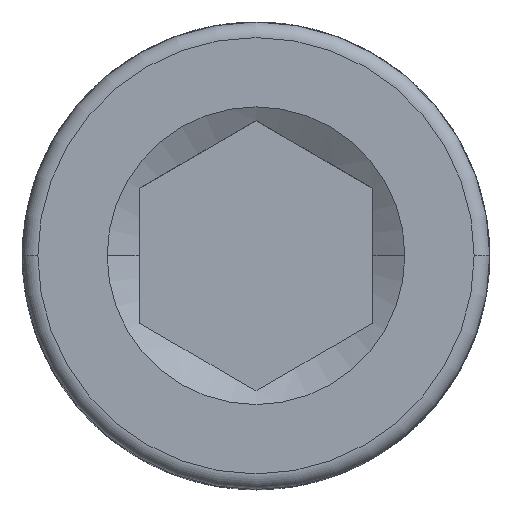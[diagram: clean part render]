
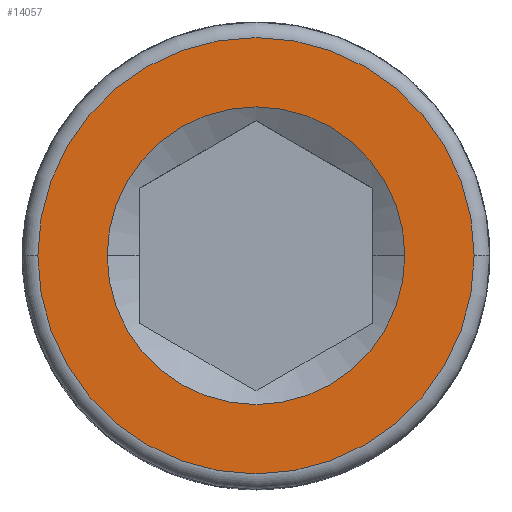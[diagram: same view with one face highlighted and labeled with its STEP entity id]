
A CAD part, top view. The second image highlights one B-rep face of the part: STEP entity #14057.
In plain terms, the highlighted planar face has unit normal (0, 0, 1).
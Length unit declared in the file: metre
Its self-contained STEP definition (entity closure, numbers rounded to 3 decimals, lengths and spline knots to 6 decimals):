
#235 = CARTESIAN_POINT ( 'NONE',  ( 0., 0., 0.053975 ) ) ;
#489 = DIRECTION ( 'NONE',  ( 0., 0., 1. ) ) ;
#561 = ORIENTED_EDGE ( 'NONE', *, *, #3369, .F. ) ;
#700 = CARTESIAN_POINT ( 'NONE',  ( 0., 0.004445, 0.053975 ) ) ;
#920 = AXIS2_PLACEMENT_3D ( 'NONE', #9072, #489, #14121 ) ;
#1283 = CARTESIAN_POINT ( 'NONE',  ( -0.004445, 0., 0.053975 ) ) ;
#1508 = EDGE_LOOP ( 'NONE', ( #9971, #561 ) ) ;
#1544 = ORIENTED_EDGE ( 'NONE', *, *, #2795, .F. ) ;
#2171 = DIRECTION ( 'NONE',  ( -1., 0., 0. ) ) ;
#2502 = CIRCLE ( 'NONE', #920, 0.003032 ) ;
#2518 = CIRCLE ( 'NONE', #11740, 0.003032 ) ;
#2795 = EDGE_CURVE ( 'NONE', #11660, #9298, #14315, .T. ) ;
#3121 = EDGE_LOOP ( 'NONE', ( #12775, #1544 ) ) ;
#3138 = DIRECTION ( 'NONE',  ( 0., 0., 1. ) ) ;
#3300 = DIRECTION ( 'NONE',  ( 1., 0., 0. ) ) ;
#3369 = EDGE_CURVE ( 'NONE', #10361, #8295, #2518, .T. ) ;
#3764 = AXIS2_PLACEMENT_3D ( 'NONE', #14806, #9434, #2171 ) ;
#4927 = CARTESIAN_POINT ( 'NONE',  ( -0.003032, 0., 0.053975 ) ) ;
#5098 = AXIS2_PLACEMENT_3D ( 'NONE', #700, #5896, #7050 ) ;
#5626 = CARTESIAN_POINT ( 'NONE',  ( 0., 0., 0.053975 ) ) ;
#5763 = EDGE_CURVE ( 'NONE', #9298, #11660, #14699, .T. ) ;
#5896 = DIRECTION ( 'NONE',  ( 0., 0., 1. ) ) ;
#6105 = CARTESIAN_POINT ( 'NONE',  ( 0.003032, 0., 0.053975 ) ) ;
#7050 = DIRECTION ( 'NONE',  ( 1., 0., 0. ) ) ;
#7662 = DIRECTION ( 'NONE',  ( -1., 0., 0. ) ) ;
#8124 = FACE_BOUND ( 'NONE', #1508, .T. ) ;
#8295 = VERTEX_POINT ( 'NONE', #6105 ) ;
#9072 = CARTESIAN_POINT ( 'NONE',  ( 0., 0., 0.053975 ) ) ;
#9280 = FACE_OUTER_BOUND ( 'NONE', #3121, .T. ) ;
#9298 = VERTEX_POINT ( 'NONE', #1283 ) ;
#9409 = AXIS2_PLACEMENT_3D ( 'NONE', #235, #15184, #7662 ) ;
#9434 = DIRECTION ( 'NONE',  ( 0., 0., -1. ) ) ;
#9971 = ORIENTED_EDGE ( 'NONE', *, *, #16087, .F. ) ;
#10361 = VERTEX_POINT ( 'NONE', #4927 ) ;
#11660 = VERTEX_POINT ( 'NONE', #14604 ) ;
#11740 = AXIS2_PLACEMENT_3D ( 'NONE', #5626, #3138, #3300 ) ;
#12775 = ORIENTED_EDGE ( 'NONE', *, *, #5763, .F. ) ;
#13407 = PLANE ( 'NONE',  #5098 ) ;
#14057 = ADVANCED_FACE ( 'NONE', ( #8124, #9280 ), #13407, .T. ) ;
#14121 = DIRECTION ( 'NONE',  ( 1., 0., 0. ) ) ;
#14315 = CIRCLE ( 'NONE', #3764, 0.004445 ) ;
#14604 = CARTESIAN_POINT ( 'NONE',  ( 0.004445, 0., 0.053975 ) ) ;
#14699 = CIRCLE ( 'NONE', #9409, 0.004445 ) ;
#14806 = CARTESIAN_POINT ( 'NONE',  ( 0., 0., 0.053975 ) ) ;
#15184 = DIRECTION ( 'NONE',  ( 0., 0., -1. ) ) ;
#16087 = EDGE_CURVE ( 'NONE', #8295, #10361, #2502, .T. ) ;
